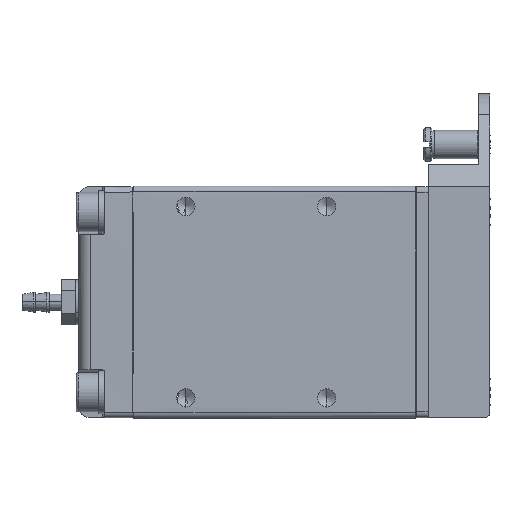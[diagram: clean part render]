
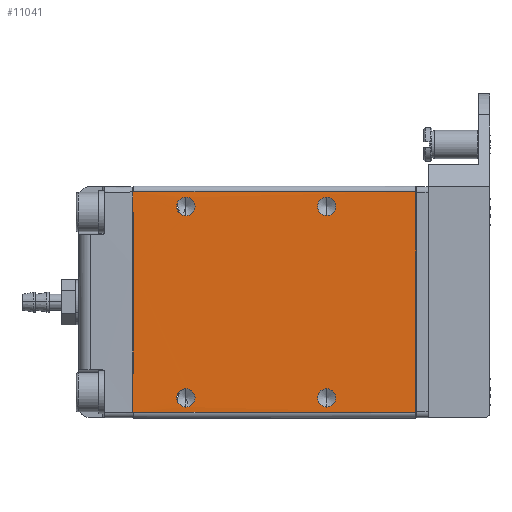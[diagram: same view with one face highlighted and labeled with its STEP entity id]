
A CAD part, left-side view. The second image highlights one B-rep face of the part: STEP entity #11041.
In plain terms, the highlighted planar face has unit normal (-1, 0, 0).
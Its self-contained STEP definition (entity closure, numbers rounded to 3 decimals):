
#6 = EDGE_LOOP ( 'NONE', ( #23271, #6197 ) ) ;
#48 = EDGE_CURVE ( 'NONE', #14162, #9416, #3355, .T. ) ;
#347 = CIRCLE ( 'NONE', #13255, 1.621 ) ;
#882 = CARTESIAN_POINT ( 'NONE',  ( -16.5, 16., 15.379 ) ) ;
#933 = ORIENTED_EDGE ( 'NONE', *, *, #26440, .T. ) ;
#1546 = EDGE_LOOP ( 'NONE', ( #2345, #2361 ) ) ;
#1924 = AXIS2_PLACEMENT_3D ( 'NONE', #22794, #8703, #25082 ) ;
#2345 = ORIENTED_EDGE ( 'NONE', *, *, #48, .T. ) ;
#2361 = ORIENTED_EDGE ( 'NONE', *, *, #23122, .T. ) ;
#3052 = ORIENTED_EDGE ( 'NONE', *, *, #9704, .T. ) ;
#3296 = EDGE_CURVE ( 'NONE', #7883, #14530, #14401, .T. ) ;
#3355 = CIRCLE ( 'NONE', #16696, 1.621 ) ;
#3815 = VERTEX_POINT ( 'NONE', #18412 ) ;
#4404 = DIRECTION ( 'NONE',  ( 1., 0., 0. ) ) ;
#4426 = EDGE_CURVE ( 'NONE', #6666, #21708, #11696, .T. ) ;
#5340 = CARTESIAN_POINT ( 'NONE',  ( -16.5, 41., 17. ) ) ;
#5415 = VECTOR ( 'NONE', #7873, 1000. ) ;
#5920 = CARTESIAN_POINT ( 'NONE',  ( -16.5, 50.3, 0. ) ) ;
#6024 = VECTOR ( 'NONE', #24818, 1000. ) ;
#6094 = CARTESIAN_POINT ( 'NONE',  ( -16.5, 16., -17. ) ) ;
#6142 = ORIENTED_EDGE ( 'NONE', *, *, #12801, .T. ) ;
#6197 = ORIENTED_EDGE ( 'NONE', *, *, #18049, .T. ) ;
#6217 = DIRECTION ( 'NONE',  ( 0., 0., 1. ) ) ;
#6440 = EDGE_CURVE ( 'NONE', #27266, #21539, #18144, .T. ) ;
#6666 = VERTEX_POINT ( 'NONE', #16807 ) ;
#6755 = CARTESIAN_POINT ( 'NONE',  ( -16.5, 41., 18.621 ) ) ;
#7108 = VERTEX_POINT ( 'NONE', #882 ) ;
#7716 = DIRECTION ( 'NONE',  ( 0., 0., -1. ) ) ;
#7839 = EDGE_LOOP ( 'NONE', ( #21950, #933 ) ) ;
#7873 = DIRECTION ( 'NONE',  ( 0., 1., 0. ) ) ;
#7883 = VERTEX_POINT ( 'NONE', #24577 ) ;
#7952 = CARTESIAN_POINT ( 'NONE',  ( -16.5, 25.25, -19.6 ) ) ;
#8246 = AXIS2_PLACEMENT_3D ( 'NONE', #9136, #9047, #9140 ) ;
#8476 = CIRCLE ( 'NONE', #1924, 1.621 ) ;
#8502 = DIRECTION ( 'NONE',  ( 0., 0., -1. ) ) ;
#8690 = CARTESIAN_POINT ( 'NONE',  ( -16.5, 41., -18.621 ) ) ;
#8703 = DIRECTION ( 'NONE',  ( 1., 0., 0. ) ) ;
#8763 = FACE_OUTER_BOUND ( 'NONE', #9253, .T. ) ;
#9047 = DIRECTION ( 'NONE',  ( 1., 0., 0. ) ) ;
#9136 = CARTESIAN_POINT ( 'NONE',  ( -16.5, 41., -17. ) ) ;
#9140 = DIRECTION ( 'NONE',  ( 0., 0., -1. ) ) ;
#9253 = EDGE_LOOP ( 'NONE', ( #28555, #6142, #21338, #17759 ) ) ;
#9416 = VERTEX_POINT ( 'NONE', #6755 ) ;
#9524 = LINE ( 'NONE', #5920, #15112 ) ;
#9704 = EDGE_CURVE ( 'NONE', #17283, #7108, #26844, .T. ) ;
#10009 = ORIENTED_EDGE ( 'NONE', *, *, #27404, .T. ) ;
#11041 = ADVANCED_FACE ( 'NONE', ( #27385, #15815, #21307, #15059, #8763 ), #23792, .T. ) ;
#11307 = AXIS2_PLACEMENT_3D ( 'NONE', #20892, #20398, #20301 ) ;
#11696 = LINE ( 'NONE', #7952, #5415 ) ;
#12201 = CARTESIAN_POINT ( 'NONE',  ( -16.437, 50.423, 19.57 ) ) ;
#12801 = EDGE_CURVE ( 'NONE', #3815, #24146, #18670, .T. ) ;
#13255 = AXIS2_PLACEMENT_3D ( 'NONE', #18664, #4404, #20957 ) ;
#14162 = VERTEX_POINT ( 'NONE', #21821 ) ;
#14401 = CIRCLE ( 'NONE', #11307, 1.621 ) ;
#14530 = VERTEX_POINT ( 'NONE', #17548 ) ;
#15059 = FACE_BOUND ( 'NONE', #6, .T. ) ;
#15112 = VECTOR ( 'NONE', #20105, 1000. ) ;
#15815 = FACE_BOUND ( 'NONE', #1546, .T. ) ;
#15980 = EDGE_LOOP ( 'NONE', ( #10009, #3052 ) ) ;
#15996 = EDGE_CURVE ( 'NONE', #6666, #3815, #25054, .T. ) ;
#16174 = CARTESIAN_POINT ( 'NONE',  ( -16.5, 41., 17. ) ) ;
#16178 = DIRECTION ( 'NONE',  ( 1., 0., 0. ) ) ;
#16233 = DIRECTION ( 'NONE',  ( 0., 0., -1. ) ) ;
#16696 = AXIS2_PLACEMENT_3D ( 'NONE', #16174, #16178, #16233 ) ;
#16807 = CARTESIAN_POINT ( 'NONE',  ( -16.5, 0.2, -19.6 ) ) ;
#16915 = CARTESIAN_POINT ( 'NONE',  ( -16.437, 50.423, -19.57 ) ) ;
#16922 = CARTESIAN_POINT ( 'NONE',  ( -16.5, 16., 17. ) ) ;
#16953 = DIRECTION ( 'NONE',  ( 1., 0., 0. ) ) ;
#16996 = DIRECTION ( 'NONE',  ( 0., 0., -1. ) ) ;
#17283 = VERTEX_POINT ( 'NONE', #27897 ) ;
#17548 = CARTESIAN_POINT ( 'NONE',  ( -16.5, 16., -15.379 ) ) ;
#17630 = EDGE_CURVE ( 'NONE', #24146, #21708, #9524, .T. ) ;
#17759 = ORIENTED_EDGE ( 'NONE', *, *, #4426, .F. ) ;
#18049 = EDGE_CURVE ( 'NONE', #14530, #7883, #28095, .T. ) ;
#18144 = CIRCLE ( 'NONE', #8246, 1.621 ) ;
#18205 = CARTESIAN_POINT ( 'NONE',  ( -16.5, 0.2, 0. ) ) ;
#18412 = CARTESIAN_POINT ( 'NONE',  ( -16.5, 0.2, 19.6 ) ) ;
#18664 = CARTESIAN_POINT ( 'NONE',  ( -16.5, 16., 17. ) ) ;
#18670 = LINE ( 'NONE', #24952, #6024 ) ;
#19470 = AXIS2_PLACEMENT_3D ( 'NONE', #5340, #21855, #7716 ) ;
#20105 = DIRECTION ( 'NONE',  ( 0., 0., -1. ) ) ;
#20301 = DIRECTION ( 'NONE',  ( 0., 0., -1. ) ) ;
#20398 = DIRECTION ( 'NONE',  ( 1., 0., 0. ) ) ;
#20416 = VECTOR ( 'NONE', #6217, 1000. ) ;
#20892 = CARTESIAN_POINT ( 'NONE',  ( -16.5, 16., -17. ) ) ;
#20957 = DIRECTION ( 'NONE',  ( 0., 0., -1. ) ) ;
#21307 = FACE_BOUND ( 'NONE', #7839, .T. ) ;
#21338 = ORIENTED_EDGE ( 'NONE', *, *, #17630, .T. ) ;
#21539 = VERTEX_POINT ( 'NONE', #26893 ) ;
#21708 = VERTEX_POINT ( 'NONE', #16915 ) ;
#21821 = CARTESIAN_POINT ( 'NONE',  ( -16.5, 41., 15.379 ) ) ;
#21855 = DIRECTION ( 'NONE',  ( 1., 0., 0. ) ) ;
#21950 = ORIENTED_EDGE ( 'NONE', *, *, #6440, .T. ) ;
#22601 = DIRECTION ( 'NONE',  ( 1., 0., 0. ) ) ;
#22794 = CARTESIAN_POINT ( 'NONE',  ( -16.5, 41., -17. ) ) ;
#23122 = EDGE_CURVE ( 'NONE', #9416, #14162, #27034, .T. ) ;
#23220 = DIRECTION ( 'NONE',  ( 0., 0., 1. ) ) ;
#23253 = DIRECTION ( 'NONE',  ( -1., 0., 0. ) ) ;
#23271 = ORIENTED_EDGE ( 'NONE', *, *, #3296, .T. ) ;
#23285 = CARTESIAN_POINT ( 'NONE',  ( -16.5, -4.81, -23.52 ) ) ;
#23792 = PLANE ( 'NONE',  #27174 ) ;
#24146 = VERTEX_POINT ( 'NONE', #12201 ) ;
#24577 = CARTESIAN_POINT ( 'NONE',  ( -16.5, 16., -18.621 ) ) ;
#24818 = DIRECTION ( 'NONE',  ( 0., 1., 0. ) ) ;
#24952 = CARTESIAN_POINT ( 'NONE',  ( -16.5, 25.25, 19.6 ) ) ;
#25054 = LINE ( 'NONE', #18205, #20416 ) ;
#25082 = DIRECTION ( 'NONE',  ( 0., 0., -1. ) ) ;
#25085 = AXIS2_PLACEMENT_3D ( 'NONE', #6094, #22601, #8502 ) ;
#26440 = EDGE_CURVE ( 'NONE', #21539, #27266, #8476, .T. ) ;
#26844 = CIRCLE ( 'NONE', #29274, 1.621 ) ;
#26893 = CARTESIAN_POINT ( 'NONE',  ( -16.5, 41., -15.379 ) ) ;
#27034 = CIRCLE ( 'NONE', #19470, 1.621 ) ;
#27174 = AXIS2_PLACEMENT_3D ( 'NONE', #23285, #23253, #23220 ) ;
#27266 = VERTEX_POINT ( 'NONE', #8690 ) ;
#27385 = FACE_BOUND ( 'NONE', #15980, .T. ) ;
#27404 = EDGE_CURVE ( 'NONE', #7108, #17283, #347, .T. ) ;
#27897 = CARTESIAN_POINT ( 'NONE',  ( -16.5, 16., 18.621 ) ) ;
#28095 = CIRCLE ( 'NONE', #25085, 1.621 ) ;
#28555 = ORIENTED_EDGE ( 'NONE', *, *, #15996, .T. ) ;
#29274 = AXIS2_PLACEMENT_3D ( 'NONE', #16922, #16953, #16996 ) ;
